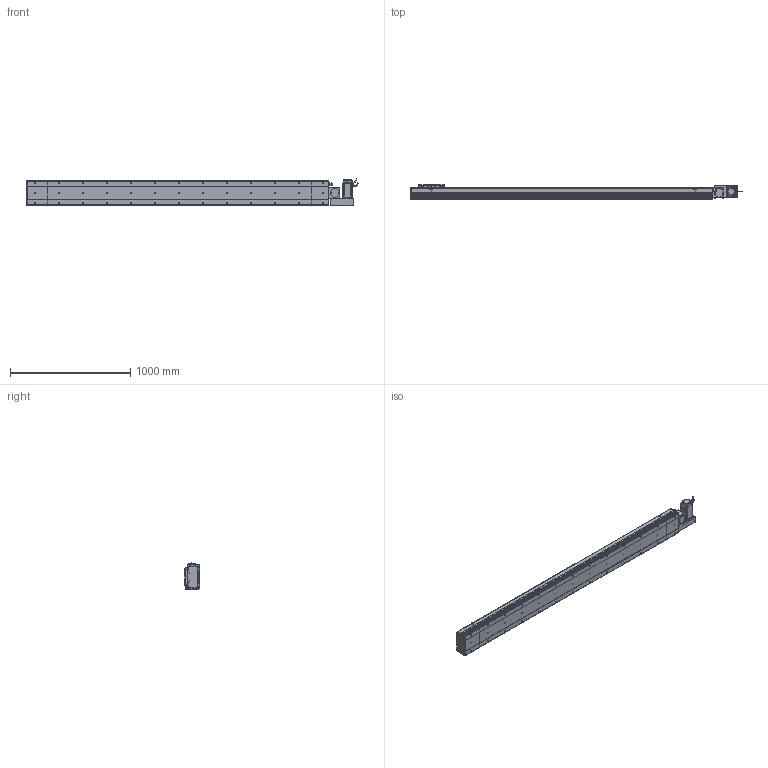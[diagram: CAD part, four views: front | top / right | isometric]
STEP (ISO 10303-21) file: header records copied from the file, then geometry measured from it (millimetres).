
FILE_DESCRIPTION (( 'STEP AP214' ), '1' );
FILE_NAME ('D20 CBH RH S2200.STEP', '2010-06-30T10:03:38', ( 'Conseil Régional Haute-Normandie' ), ( 'Conseil Régional Haute-Normandie' ), 'SwSTEP 2.0', 'SolidWorks 2010', '' );
FILE_SCHEMA (( 'AUTOMOTIVE_DESIGN' ));
Length unit declared in the file: millimetre
Products named in the file (31): Tail D20_Default; Moteur motionking 90BLDC125A-640; Support Chariot D20_Default; Glissiere_Default; Chariot D20_Default; Couvercle S2200_Default; Corp S2200_Default; vis M5 L30_Default; ecrou_Default; Conecteur_Default; Corp D20 S2200_Default; vis M5 L47_Default; Cache Support Moteur RH_Default; Conecteur2_Default; codeur 90BLDC125-640; corps 90BLDC125A-640; avant 90BLDC125A-640; vis M5 L15_Default; Plaque De Serrage D20_Default; Plaque de Bout Tail D20_Default; Couvercle_Default; Corp Tail D20_Default; Head D20 RH_Default; D20 CBH RH S2200; Plaque de Bout Head D20 RH_Default; Couvercle RH_Default; Corp Tail D20 RH_Default; Support moteur RH_Default; Rondelle Cache D20 RH_Default; Plaque De Serrage D20 RH_Default
Assembly tree (68 placements, depth 4):
  D20 CBH RH S2200
    Head D20 RH_Default
      Support moteur RH_Default
      vis M5 L15_Default  x14
      vis M5 L30_Default  x4
      ecrou_Default  x4
      Moteur motionking 90BLDC125A-640
        Conecteur2_Default
        corps 90BLDC125A-640
        avant 90BLDC125A-640
        codeur 90BLDC125-640
        Conecteur_Default
      vis M5 L47_Default  x4
      Cache Support Moteur RH_Default
      Plaque De Serrage D20 RH_Default
      Couvercle RH_Default
      Corp Tail D20 RH_Default
      Rondelle Cache D20 RH_Default  x3
      Plaque de Bout Head D20 RH_Default
    Tail D20_Default
      Plaque de Bout Tail D20_Default
      vis M5 L15_Default  x6
      Couvercle_Default
      Corp Tail D20_Default
      Plaque De Serrage D20_Default
    Corp D20 S2200_Default
      Couvercle S2200_Default
      Corp S2200_Default
    Chariot D20_Default
      vis M5 L15_Default  x8
      Support Chariot D20_Default
      Chariot D20_Default
      Glissiere_Default
Bounding box: 2765.45 x 119.5 x 229.7 mm (x, y, z)
Volume: 18188144.1 mm3; surface area: 3540669.9 mm2
Topology: 105 solids, 105 shells, 3826 faces, 9516 edges, 6178 vertices
Faces by surface type: plane 2131, bspline 806, cylinder 718, torus 95, cone 72, sphere 4
Entity records: 159662 total; most frequent: CARTESIAN_POINT 82352, ORIENTED_EDGE 15300, DIRECTION 11662, EDGE_CURVE 7650, VERTEX_POINT 5062, VECTOR 4942, LINE 4942, AXIS2_PLACEMENT_3D 3360
